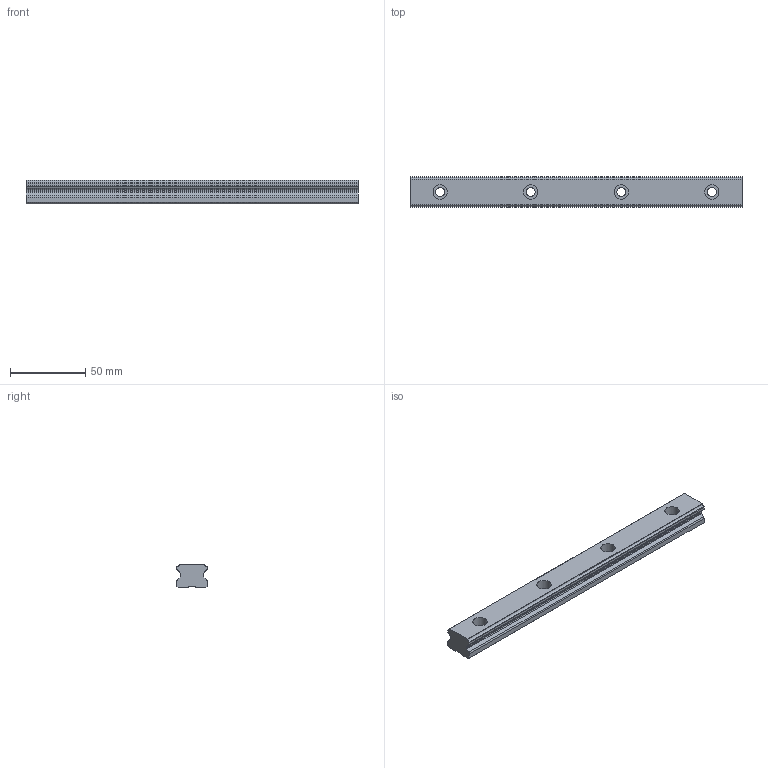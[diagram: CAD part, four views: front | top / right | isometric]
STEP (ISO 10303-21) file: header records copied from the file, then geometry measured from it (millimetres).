
FILE_DESCRIPTION(('starvars output'),'2;1');
FILE_NAME('cv20190626225348000076096.stp','22:53:48 2019/06/26',( 'Thomas Industrial Network Germany GmbH'),( 'Thomas Industrial Network Germany GmbH'),'unknown preprocess','ACIS' ,'unknown authorization');
FILE_SCHEMA(('CONFIG_CONTROL_DESIGN {UNKNOWN IMPLEMENTATION LEVEL}'));
Length unit declared in the file: millimetre
Products named in the file (1): PRODUCT_ID_1
Bounding box: 220 x 20 x 15.5 mm (x, y, z)
Volume: 58385.4 mm3; surface area: 17797.5 mm2
Topology: 1 solids, 1 shells, 72 faces, 202 edges, 132 vertices
Faces by surface type: plane 38, cylinder 34
Entity records: 2131 total; most frequent: ORIENTED_EDGE 404, CARTESIAN_POINT 338, DIRECTION 318, EDGE_CURVE 202, VERTEX_POINT 132, AXIS2_PLACEMENT_3D 112, VECTOR 94, LINE 94
